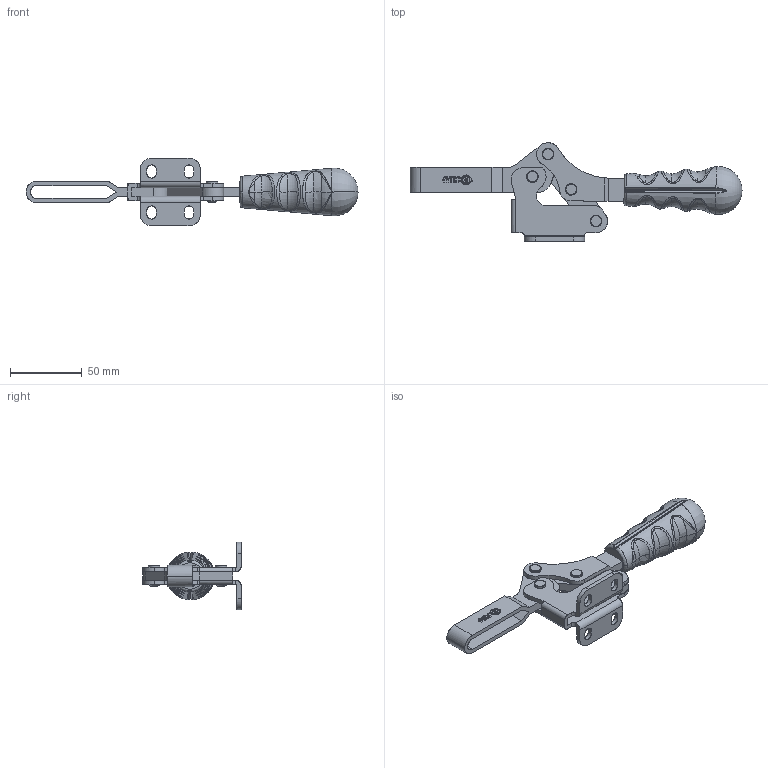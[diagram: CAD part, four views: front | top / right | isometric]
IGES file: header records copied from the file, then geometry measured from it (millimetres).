
Start section: Comment
Global section: file name: 22502b.igs; native system:  By Spatial Corp.; preprocessor: XPlus PS/IGES 3.0; author: Author; organization: Title; date: 20050217.081632; units: inch
Bounding box: 230.82 x 68.53 x 47 mm (x, y, z)
Surface area: 44116.2 mm2 (no closed solid volume)
Topology: 0 solids, 0 shells, 401 faces, 2041 edges, 2034 vertices
Faces by surface type: revolution 195, extrusion 154, bspline 52
